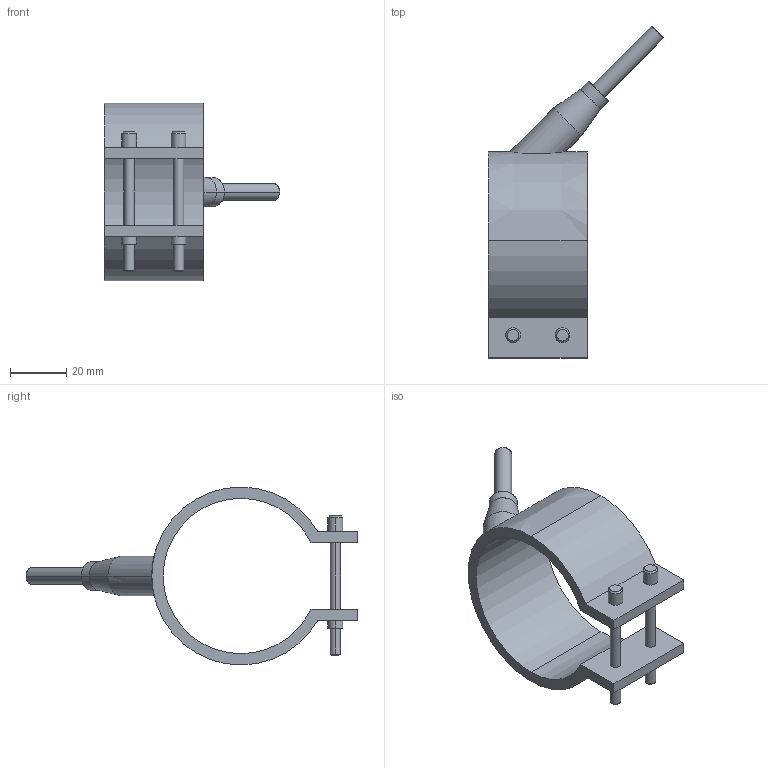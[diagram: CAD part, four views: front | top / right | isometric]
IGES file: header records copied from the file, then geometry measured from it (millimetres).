
Start section: START RECORD GO HERE.
Global section: file name: 29055035.igs; native system: DASSAULT SYSTEMES CATIA V5 R20 - www.3ds.com; preprocessor: CATIA Version 5 Release 20 ; author: Utente; organization: NB04-ASUS; date: 20210329.151112; units: millimetre
Bounding box: 62.05 x 117.55 x 63 mm (x, y, z)
Surface area: 17549.2 mm2 (no closed solid volume)
Topology: 0 solids, 0 shells, 54 faces, 248 edges, 248 vertices
Faces by surface type: revolution 38, plane 16
